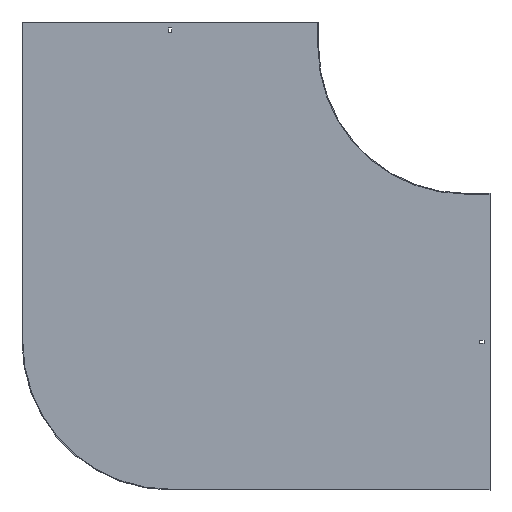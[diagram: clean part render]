
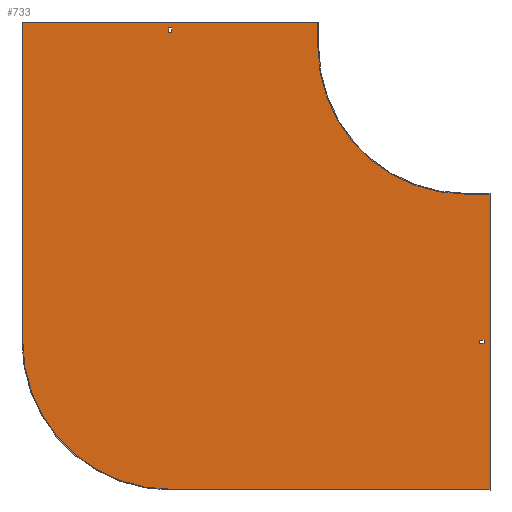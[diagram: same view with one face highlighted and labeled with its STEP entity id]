
A CAD part, front view. The second image highlights one B-rep face of the part: STEP entity #733.
In plain terms, the highlighted planar face has unit normal (0, -1, 0).
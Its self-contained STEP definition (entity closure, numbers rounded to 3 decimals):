
#18 = DIRECTION ( 'NONE',  ( 1., 0., 0. ) ) ;
#19 = VERTEX_POINT ( 'NONE', #722 ) ;
#20 = LINE ( 'NONE', #351, #726 ) ;
#23 = LINE ( 'NONE', #292, #102 ) ;
#39 = EDGE_LOOP ( 'NONE', ( #701, #730, #650, #152 ) ) ;
#40 = AXIS2_PLACEMENT_3D ( 'NONE', #272, #324, #463 ) ;
#42 = LINE ( 'NONE', #568, #305 ) ;
#43 = ORIENTED_EDGE ( 'NONE', *, *, #541, .F. ) ;
#50 = ORIENTED_EDGE ( 'NONE', *, *, #563, .F. ) ;
#61 = LINE ( 'NONE', #786, #807 ) ;
#62 = LINE ( 'NONE', #400, #635 ) ;
#65 = CARTESIAN_POINT ( 'NONE',  ( 0., -1.5, -300. ) ) ;
#67 = CARTESIAN_POINT ( 'NONE',  ( 0., -1.5, -603.25 ) ) ;
#74 = CARTESIAN_POINT ( 'NONE',  ( 38., -1.5, 0. ) ) ;
#84 = CIRCLE ( 'NONE', #829, 300. ) ;
#102 = VECTOR ( 'NONE', #676, 1000. ) ;
#106 = ORIENTED_EDGE ( 'NONE', *, *, #700, .F. ) ;
#107 = ORIENTED_EDGE ( 'NONE', *, *, #632, .F. ) ;
#111 = VERTEX_POINT ( 'NONE', #823 ) ;
#116 = VECTOR ( 'NONE', #739, 1000. ) ;
#134 = LINE ( 'NONE', #67, #795 ) ;
#135 = CARTESIAN_POINT ( 'NONE',  ( 50., -1.5, -300. ) ) ;
#137 = EDGE_CURVE ( 'NONE', #220, #155, #493, .T. ) ;
#152 = ORIENTED_EDGE ( 'NONE', *, *, #689, .T. ) ;
#155 = VERTEX_POINT ( 'NONE', #227 ) ;
#159 = VECTOR ( 'NONE', #293, 1000. ) ;
#165 = FACE_BOUND ( 'NONE', #681, .T. ) ;
#166 = VERTEX_POINT ( 'NONE', #65 ) ;
#167 = EDGE_CURVE ( 'NONE', #381, #111, #530, .T. ) ;
#172 = CARTESIAN_POINT ( 'NONE',  ( -596.75, -1.5, 29. ) ) ;
#203 = ORIENTED_EDGE ( 'NONE', *, *, #596, .F. ) ;
#205 = EDGE_CURVE ( 'NONE', #313, #618, #209, .T. ) ;
#208 = DIRECTION ( 'NONE',  ( -1., 0., 0. ) ) ;
#209 = LINE ( 'NONE', #597, #159 ) ;
#214 = CARTESIAN_POINT ( 'NONE',  ( -603.25, -1.5, 0. ) ) ;
#220 = VERTEX_POINT ( 'NONE', #828 ) ;
#227 = CARTESIAN_POINT ( 'NONE',  ( -900., -1.5, 50. ) ) ;
#240 = VERTEX_POINT ( 'NONE', #340 ) ;
#247 = VERTEX_POINT ( 'NONE', #751 ) ;
#272 = CARTESIAN_POINT ( 'NONE',  ( 0., -1.5, 0. ) ) ;
#273 = EDGE_CURVE ( 'NONE', #579, #643, #42, .T. ) ;
#280 = VERTEX_POINT ( 'NONE', #504 ) ;
#281 = EDGE_CURVE ( 'NONE', #111, #302, #61, .T. ) ;
#292 = CARTESIAN_POINT ( 'NONE',  ( -901.5, -1.5, 50. ) ) ;
#293 = DIRECTION ( 'NONE',  ( -1., 0., 0. ) ) ;
#297 = ORIENTED_EDGE ( 'NONE', *, *, #281, .F. ) ;
#300 = CARTESIAN_POINT ( 'NONE',  ( 29., -1.5, -603.25 ) ) ;
#302 = VERTEX_POINT ( 'NONE', #300 ) ;
#305 = VECTOR ( 'NONE', #308, 1000. ) ;
#308 = DIRECTION ( 'NONE',  ( 0., 0., -1. ) ) ;
#313 = VERTEX_POINT ( 'NONE', #172 ) ;
#315 = DIRECTION ( 'NONE',  ( 0., 0., -1. ) ) ;
#317 = DIRECTION ( 'NONE',  ( 0., 0., -1. ) ) ;
#324 = DIRECTION ( 'NONE',  ( 0., -1., 0. ) ) ;
#331 = ORIENTED_EDGE ( 'NONE', *, *, #167, .F. ) ;
#340 = CARTESIAN_POINT ( 'NONE',  ( -300., -1.5, 0. ) ) ;
#341 = VECTOR ( 'NONE', #830, 1000. ) ;
#351 = CARTESIAN_POINT ( 'NONE',  ( 0., -1.5, -300. ) ) ;
#368 = FACE_OUTER_BOUND ( 'NONE', #836, .T. ) ;
#377 = VECTOR ( 'NONE', #535, 1000. ) ;
#381 = VERTEX_POINT ( 'NONE', #774 ) ;
#393 = VECTOR ( 'NONE', #803, 1000. ) ;
#396 = AXIS2_PLACEMENT_3D ( 'NONE', #575, #430, #434 ) ;
#400 = CARTESIAN_POINT ( 'NONE',  ( 50., -1.5, -900. ) ) ;
#415 = CIRCLE ( 'NONE', #40, 300. ) ;
#421 = DIRECTION ( 'NONE',  ( 0., 0., 1. ) ) ;
#430 = DIRECTION ( 'NONE',  ( 0., -1., 0. ) ) ;
#434 = DIRECTION ( 'NONE',  ( 0., 0., -1. ) ) ;
#456 = CARTESIAN_POINT ( 'NONE',  ( 0., -1.5, -596.75 ) ) ;
#463 = DIRECTION ( 'NONE',  ( 0., 0., -1. ) ) ;
#477 = CARTESIAN_POINT ( 'NONE',  ( -596.75, -1.5, 0. ) ) ;
#481 = CARTESIAN_POINT ( 'NONE',  ( -596.75, -1.5, 38. ) ) ;
#486 = VECTOR ( 'NONE', #421, 1000. ) ;
#493 = LINE ( 'NONE', #824, #341 ) ;
#497 = EDGE_CURVE ( 'NONE', #247, #705, #853, .T. ) ;
#499 = CARTESIAN_POINT ( 'NONE',  ( -600., -1.5, -600. ) ) ;
#504 = CARTESIAN_POINT ( 'NONE',  ( -600., -1.5, -900. ) ) ;
#510 = VERTEX_POINT ( 'NONE', #578 ) ;
#512 = DIRECTION ( 'NONE',  ( 1., 0., 0. ) ) ;
#513 = PLANE ( 'NONE',  #396 ) ;
#521 = EDGE_CURVE ( 'NONE', #643, #280, #62, .T. ) ;
#524 = CARTESIAN_POINT ( 'NONE',  ( -603.25, -1.5, 29. ) ) ;
#526 = EDGE_CURVE ( 'NONE', #705, #313, #814, .T. ) ;
#530 = LINE ( 'NONE', #456, #393 ) ;
#535 = DIRECTION ( 'NONE',  ( 0., 0., 1. ) ) ;
#541 = EDGE_CURVE ( 'NONE', #166, #579, #20, .T. ) ;
#562 = VECTOR ( 'NONE', #512, 1000. ) ;
#563 = EDGE_CURVE ( 'NONE', #19, #381, #706, .T. ) ;
#568 = CARTESIAN_POINT ( 'NONE',  ( 50., -1.5, -298.5 ) ) ;
#575 = CARTESIAN_POINT ( 'NONE',  ( 0., -1.5, 0. ) ) ;
#578 = CARTESIAN_POINT ( 'NONE',  ( -300., -1.5, 50. ) ) ;
#579 = VERTEX_POINT ( 'NONE', #135 ) ;
#583 = CARTESIAN_POINT ( 'NONE',  ( 50., -1.5, -900. ) ) ;
#585 = CARTESIAN_POINT ( 'NONE',  ( -300., -1.5, 50. ) ) ;
#586 = ORIENTED_EDGE ( 'NONE', *, *, #611, .F. ) ;
#596 = EDGE_CURVE ( 'NONE', #510, #240, #784, .T. ) ;
#597 = CARTESIAN_POINT ( 'NONE',  ( 0., -1.5, 29. ) ) ;
#611 = EDGE_CURVE ( 'NONE', #302, #19, #134, .T. ) ;
#618 = VERTEX_POINT ( 'NONE', #524 ) ;
#627 = ORIENTED_EDGE ( 'NONE', *, *, #772, .F. ) ;
#632 = EDGE_CURVE ( 'NONE', #240, #166, #415, .T. ) ;
#635 = VECTOR ( 'NONE', #208, 1000. ) ;
#643 = VERTEX_POINT ( 'NONE', #583 ) ;
#645 = CARTESIAN_POINT ( 'NONE',  ( 0., -1.5, 38. ) ) ;
#646 = ORIENTED_EDGE ( 'NONE', *, *, #273, .F. ) ;
#650 = ORIENTED_EDGE ( 'NONE', *, *, #205, .T. ) ;
#676 = DIRECTION ( 'NONE',  ( 1., 0., 0. ) ) ;
#681 = EDGE_LOOP ( 'NONE', ( #331, #50, #586, #297 ) ) ;
#684 = LINE ( 'NONE', #214, #486 ) ;
#686 = FACE_BOUND ( 'NONE', #39, .T. ) ;
#689 = EDGE_CURVE ( 'NONE', #618, #247, #684, .T. ) ;
#697 = ORIENTED_EDGE ( 'NONE', *, *, #521, .F. ) ;
#700 = EDGE_CURVE ( 'NONE', #155, #510, #23, .T. ) ;
#701 = ORIENTED_EDGE ( 'NONE', *, *, #497, .T. ) ;
#702 = ORIENTED_EDGE ( 'NONE', *, *, #137, .F. ) ;
#705 = VERTEX_POINT ( 'NONE', #481 ) ;
#706 = LINE ( 'NONE', #74, #377 ) ;
#722 = CARTESIAN_POINT ( 'NONE',  ( 38., -1.5, -603.25 ) ) ;
#726 = VECTOR ( 'NONE', #745, 1000. ) ;
#730 = ORIENTED_EDGE ( 'NONE', *, *, #526, .T. ) ;
#733 = ADVANCED_FACE ( 'NONE', ( #165, #368, #686 ), #513, .T. ) ;
#739 = DIRECTION ( 'NONE',  ( 0., 0., -1. ) ) ;
#745 = DIRECTION ( 'NONE',  ( 1., 0., 0. ) ) ;
#751 = CARTESIAN_POINT ( 'NONE',  ( -603.25, -1.5, 38. ) ) ;
#762 = DIRECTION ( 'NONE',  ( 0., 0., -1. ) ) ;
#772 = EDGE_CURVE ( 'NONE', #280, #220, #84, .T. ) ;
#774 = CARTESIAN_POINT ( 'NONE',  ( 38., -1.5, -596.75 ) ) ;
#780 = DIRECTION ( 'NONE',  ( 0., 1., 0. ) ) ;
#784 = LINE ( 'NONE', #585, #839 ) ;
#786 = CARTESIAN_POINT ( 'NONE',  ( 29., -1.5, 0. ) ) ;
#795 = VECTOR ( 'NONE', #18, 1000. ) ;
#803 = DIRECTION ( 'NONE',  ( -1., 0., 0. ) ) ;
#807 = VECTOR ( 'NONE', #317, 1000. ) ;
#814 = LINE ( 'NONE', #477, #116 ) ;
#823 = CARTESIAN_POINT ( 'NONE',  ( 29., -1.5, -596.75 ) ) ;
#824 = CARTESIAN_POINT ( 'NONE',  ( -900., -1.5, -600. ) ) ;
#828 = CARTESIAN_POINT ( 'NONE',  ( -900., -1.5, -600. ) ) ;
#829 = AXIS2_PLACEMENT_3D ( 'NONE', #499, #780, #762 ) ;
#830 = DIRECTION ( 'NONE',  ( 0., 0., 1. ) ) ;
#836 = EDGE_LOOP ( 'NONE', ( #106, #702, #627, #697, #646, #43, #107, #203 ) ) ;
#839 = VECTOR ( 'NONE', #315, 1000. ) ;
#853 = LINE ( 'NONE', #645, #562 ) ;
